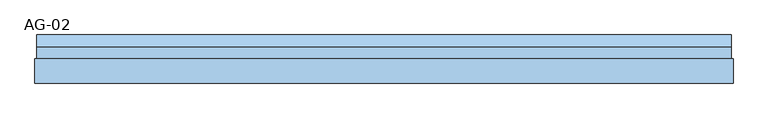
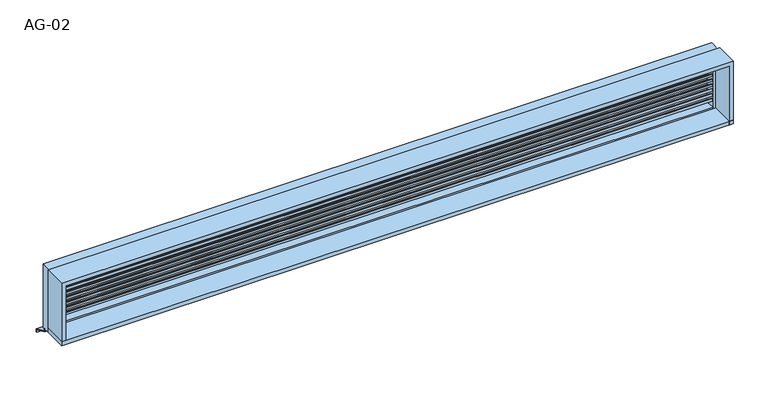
"""IFC4 building model written with IfcOpenShell, lengths in millimetres: window geometry, 営_単窓_ガラリ : AG-02."""

import ifcopenshell
import ifcopenshell.guid

model = None  # the IFC model being written
_history = None  # IfcOwnerHistory: only IFC2X3 demands one
_inside = {}  # id of a spatial element -> (the spatial element, [elements in it])
_under = {}  # id of a project, library or spatial element -> (it, [spatial elements below it])
_declared = {}  # id of a project -> (the project, [libraries it declares])
_typed = {}  # id of a type object -> (the type object, [elements of that type])
_made_of = {}  # id of a material, layer set ... -> (it, [elements and type objects made of it])


def new_model(schema):
    """Start an empty IFC model of exactly this schema.

    Asked for "IFC4X3", IfcOpenShell would pick the latest addendum, in which some entities
    have other attributes; the version numbers below select the first issue.
    IFC2X3 requires an IfcOwnerHistory on every rooted entity: one is made here for all.
    """
    global model, _history
    if schema == "IFC4X3":
        model = ifcopenshell.file(schema_version=(4, 3, 0, 0))
    else:
        model = ifcopenshell.file(schema=schema)
    _inside.clear()
    _under.clear()
    _declared.clear()
    _typed.clear()
    _made_of.clear()
    _history = None
    if model.schema == "IFC2X3":
        org = make("IfcOrganization", Name="unknown")
        user = make(
            "IfcPersonAndOrganization",
            ThePerson=make("IfcPerson", FamilyName="unknown"),
            TheOrganization=org,
        )
        app = make(
            "IfcApplication",
            ApplicationDeveloper=org,
            Version="unknown",
            ApplicationFullName="unknown",
            ApplicationIdentifier="unknown",
        )
        _history = make(
            "IfcOwnerHistory",
            OwningUser=user,
            OwningApplication=app,
            ChangeAction="ADDED",
            CreationDate=0,
        )
    return model


def make(cls, **values):
    """One entity of the class cls with the attributes given. An attribute that is None is left unset."""
    return model.create_entity(
        cls, **{name: value for name, value in values.items() if value is not None}
    )


def rooted(cls, **values):
    """An entity with a GlobalId (a new one), such as an element, a storey or a relation."""
    return make(cls, GlobalId=ifcopenshell.guid.new(), OwnerHistory=_history, **values)


def si_unit(unit_type, name, prefix=None):
    """IfcSIUnit, for example si_unit("LENGTHUNIT", "METRE", prefix="MILLI")."""
    return make("IfcSIUnit", UnitType=unit_type, Prefix=prefix, Name=name)


def assignment(units):
    """IfcUnitAssignment: the units of a project."""
    return None if units is None else make("IfcUnitAssignment", Units=units)


def point(xyz):
    """IfcCartesianPoint."""
    return None if xyz is None else make("IfcCartesianPoint", Coordinates=xyz)


def direction(xyz):
    """IfcDirection."""
    return None if xyz is None else make("IfcDirection", DirectionRatios=xyz)


def frame(location, z_axis=None, x_axis=None):
    """IfcAxis2Placement3D, a coordinate frame: its origin and axes. An axis left out is left unset."""
    return make(
        "IfcAxis2Placement3D",
        Location=point(location),
        Axis=direction(z_axis),
        RefDirection=direction(x_axis),
    )


def origin():
    """The frame at (0, 0, 0) with its axes left unset."""
    return frame((0.0, 0.0, 0.0))


def place(relative_to, where):
    """IfcLocalPlacement: puts the frame where relative to a parent placement (None: the world)."""
    return make(
        "IfcLocalPlacement", PlacementRelTo=relative_to, RelativePlacement=where
    )


def context(
    kind, dimensions, precision=None, world=None, true_north=None, identifier=None
):
    """IfcGeometricRepresentationContext, for example the 3D "Model" context."""
    return make(
        "IfcGeometricRepresentationContext",
        ContextIdentifier=identifier,
        ContextType=kind,
        CoordinateSpaceDimension=dimensions,
        Precision=precision,
        WorldCoordinateSystem=world,
        TrueNorth=true_north,
    )


def project(units=None, contexts=None):
    """IfcProject with its units and contexts."""
    return rooted(
        "IfcProject",
        Name="project",
        RepresentationContexts=contexts,
        UnitsInContext=assignment(units),
    )


def spatial(cls, under=None, at=None, **own):
    """A site, building, storey or space (cls), placed at a placement, below another one or the project."""
    s = rooted(cls, ObjectPlacement=at, **own)
    if under is not None:
        _under.setdefault(under.id(), (under, []))[1].append(s)
    return s


def polyline(points):
    """IfcPolyline through the points."""
    return make("IfcPolyline", Points=[point(p) for p in points])


def outline(outer, holes=None, kind="AREA"):
    """IfcArbitraryClosedProfileDef: a profile drawn as a closed curve; with holes, ...WithVoids."""
    if holes is None:
        return make("IfcArbitraryClosedProfileDef", ProfileType=kind, OuterCurve=outer)
    return make(
        "IfcArbitraryProfileDefWithVoids",
        ProfileType=kind,
        OuterCurve=outer,
        InnerCurves=holes,
    )


def extrude(swept, where, along, depth):
    """IfcExtrudedAreaSolid: the profile swept, set in the frame where, extruded along a direction by depth."""
    return make(
        "IfcExtrudedAreaSolid",
        SweptArea=swept,
        Position=where,
        ExtrudedDirection=direction(along),
        Depth=depth,
    )


def shape(context_of_items, identifier, shape_type, items):
    """IfcShapeRepresentation: the items that make up one representation, for example the "Body"."""
    return make(
        "IfcShapeRepresentation",
        ContextOfItems=context_of_items,
        RepresentationIdentifier=identifier,
        RepresentationType=shape_type,
        Items=items,
    )


def source(mapping_origin, context_of_items, identifier, shape_type, items):
    """IfcRepresentationMap: a shape defined once, which mapped items show again and again."""
    return make(
        "IfcRepresentationMap",
        MappingOrigin=mapping_origin,
        MappedRepresentation=shape(context_of_items, identifier, shape_type, items),
    )


def transform(
    local_origin,
    x_axis=None,
    y_axis=None,
    z_axis=None,
    scale=None,
    scale2=None,
    scale3=None,
    uniform=True,
):
    """IfcCartesianTransformationOperator3D, or its non-uniform kind. x_axis, y_axis, z_axis: its Axis1, 2, 3."""
    if uniform:
        return make(
            "IfcCartesianTransformationOperator3D",
            Axis1=direction(x_axis),
            Axis2=direction(y_axis),
            LocalOrigin=point(local_origin),
            Scale=scale,
            Axis3=direction(z_axis),
        )
    return make(
        "IfcCartesianTransformationOperator3DnonUniform",
        Axis1=direction(x_axis),
        Axis2=direction(y_axis),
        LocalOrigin=point(local_origin),
        Scale=scale,
        Axis3=direction(z_axis),
        Scale2=scale2,
        Scale3=scale3,
    )


def mapped(mapping_source, mapping_target):
    """IfcMappedItem: shows the shape of a source again, moved by a transform."""
    return make(
        "IfcMappedItem", MappingSource=mapping_source, MappingTarget=mapping_target
    )


def made_of(thing, what):
    """Note that an element or type object is made of a material, layer set ...; save() writes the relation."""
    if what is not None:
        _made_of.setdefault(what.id(), (what, []))[1].append(thing)
    return thing


def element(
    cls,
    number,
    at=None,
    inside=None,
    cuts=None,
    type_object=None,
    material=None,
    context=None,
    identifier="Body",
    shape_type=None,
    held_by="IfcProductDefinitionShape",
    body=None,
    shapes=None,
    **own,
):
    """One element of the class cls, such as IfcWall. Its Tag is "e" and its number.

    at: its placement. inside: the storey or other place that contains it. cuts: it is an
    opening in that element (IfcRelVoidsElement). A single representation is given by context,
    identifier, shape_type and body (its items); several are given by shapes. held_by: the class
    of the entity that holds the representations. save() writes the other relations.
    """
    e = rooted(cls, Tag="e%d" % number, ObjectPlacement=at, **own)
    if body is not None:
        shapes = [shape(context, identifier, shape_type, body)]
    if shapes is not None:
        e.Representation = make(held_by, Representations=shapes)
    if inside is not None:
        _inside.setdefault(inside.id(), (inside, []))[1].append(e)
    if cuts is not None:
        rooted(
            "IfcRelVoidsElement", RelatingBuildingElement=cuts, RelatedOpeningElement=e
        )
    if type_object is not None:
        _typed.setdefault(type_object.id(), (type_object, []))[1].append(e)
    return made_of(e, material)


def aggregate(whole, parts):
    """IfcRelAggregates: a whole, such as a stair, and the parts it consists of."""
    return rooted("IfcRelAggregates", RelatingObject=whole, RelatedObjects=parts)


def save(model, path):
    """Write the relations noted so far, then the file.

    IfcRelAggregates (storeys below a building ...), IfcRelContainedInSpatialStructure (elements
    in a storey), IfcRelDefinesByType, IfcRelAssociatesMaterial and IfcRelDeclares: one each for
    every whole, place, type object, material and project.
    """
    for whole, parts in _under.values():
        aggregate(whole, parts)
    for where, things in _inside.values():
        rooted(
            "IfcRelContainedInSpatialStructure",
            RelatedElements=things,
            RelatingStructure=where,
        )
    for kind, things in _typed.values():
        rooted("IfcRelDefinesByType", RelatedObjects=things, RelatingType=kind)
    for what, things in _made_of.values():
        rooted("IfcRelAssociatesMaterial", RelatedObjects=things, RelatingMaterial=what)
    for by, libraries in _declared.values():
        rooted("IfcRelDeclares", RelatingContext=by, RelatedDefinitions=libraries)
    model.write(path)


def ag_02_89f51cda(model_context):
    return source(origin(), model_context, "Body", "SweptSolid", [
        extrude(outline(polyline([(15.0, 1484.9160321), (15.0, 1466.6666667), (10.0, 1466.6666667), (10.0, 1481.6666667), (-35.0, 1501.6666667), (-35.0, 1516.6666667), (-30.0, 1516.6666667), (-30.0, 1504.9160321), (15.0, 1484.9160321)])), frame((-2100.0, 0.0, 0.0), z_axis=(1.0, 0.0, 0.0), x_axis=(0.0, 1.0, 0.0)), (0.0, 0.0, 1.0), 4200.0),
        extrude(outline(polyline([(15.0, 1451.5826988), (15.0, 1433.3333333), (10.0, 1433.3333333), (10.0, 1448.3333333), (-35.0, 1468.3333333), (-35.0, 1483.3333333), (-30.0, 1483.3333333), (-30.0, 1471.5826988), (15.0, 1451.5826988)])), frame((-2100.0, 0.0, 0.0), z_axis=(1.0, 0.0, 0.0), x_axis=(0.0, 1.0, 0.0)), (0.0, 0.0, 1.0), 4200.0),
        extrude(outline(polyline([(15.0, 1418.2493654), (15.0, 1400.0), (10.0, 1400.0), (10.0, 1415.0), (-35.0, 1435.0), (-35.0, 1450.0), (-30.0, 1450.0), (-30.0, 1438.2493654), (15.0, 1418.2493654)])), frame((-2100.0, 0.0, 0.0), z_axis=(1.0, 0.0, 0.0), x_axis=(0.0, 1.0, 0.0)), (0.0, 0.0, 1.0), 4200.0),
        extrude(outline(polyline([(15.0, 1384.9160321), (15.0, 1366.6666667), (10.0, 1366.6666667), (10.0, 1381.6666667), (-35.0, 1401.6666667), (-35.0, 1416.6666667), (-30.0, 1416.6666667), (-30.0, 1404.9160321), (15.0, 1384.9160321)])), frame((-2100.0, 0.0, 0.0), z_axis=(1.0, 0.0, 0.0), x_axis=(0.0, 1.0, 0.0)), (0.0, 0.0, 1.0), 4200.0),
        extrude(outline(polyline([(15.0, 1351.5826988), (15.0, 1333.3333333), (10.0, 1333.3333333), (10.0, 1348.3333333), (-35.0, 1368.3333333), (-35.0, 1383.3333333), (-30.0, 1383.3333333), (-30.0, 1371.5826988), (15.0, 1351.5826988)])), frame((-2100.0, 0.0, 0.0), z_axis=(1.0, 0.0, 0.0), x_axis=(0.0, 1.0, 0.0)), (0.0, 0.0, 1.0), 4200.0),
        extrude(outline(polyline([(15.0, 1318.2493654), (15.0, 1300.0), (10.0, 1300.0), (10.0, 1315.0), (-35.0, 1335.0), (-35.0, 1350.0), (-30.0, 1350.0), (-30.0, 1338.2493654), (15.0, 1318.2493654)])), frame((-2100.0, 0.0, 0.0), z_axis=(1.0, 0.0, 0.0), x_axis=(0.0, 1.0, 0.0)), (0.0, 0.0, 1.0), 4200.0),
        extrude(outline(polyline([(15.0, 1284.9160321), (15.0, 1266.6666667), (10.0, 1266.6666667), (10.0, 1281.6666667), (-35.0, 1301.6666667), (-35.0, 1316.6666667), (-30.0, 1316.6666667), (-30.0, 1304.9160321), (15.0, 1284.9160321)])), frame((-2100.0, 0.0, 0.0), z_axis=(1.0, 0.0, 0.0), x_axis=(0.0, 1.0, 0.0)), (0.0, 0.0, 1.0), 4200.0),
        extrude(outline(polyline([(15.0, 1251.5826988), (15.0, 1233.3333333), (10.0, 1233.3333333), (10.0, 1248.3333333), (-35.0, 1268.3333333), (-35.0, 1283.3333333), (-30.0, 1283.3333333), (-30.0, 1271.5826988), (15.0, 1251.5826988)])), frame((-2100.0, 0.0, 0.0), z_axis=(1.0, 0.0, 0.0), x_axis=(0.0, 1.0, 0.0)), (0.0, 0.0, 1.0), 4200.0),
        extrude(outline(polyline([(15.0, 1518.2493654), (15.0, 1500.0), (10.0, 1500.0), (10.0, 1515.0), (-35.0, 1535.0), (-35.0, 1550.0), (-30.0, 1550.0), (-30.0, 1538.2493654), (15.0, 1518.2493654)])), frame((-2100.0, 0.0, 0.0), z_axis=(1.0, 0.0, 0.0), x_axis=(0.0, 1.0, 0.0)), (0.0, 0.0, 1.0), 4200.0),
        extrude(outline(polyline([(15.0, 1218.2493654), (15.0, 1200.0), (10.0, 1200.0), (10.0, 1215.0), (-35.0, 1235.0), (-35.0, 1250.0), (-30.0, 1250.0), (-30.0, 1238.2493654), (15.0, 1218.2493654)])), frame((-2100.0, 0.0, 0.0), z_axis=(1.0, 0.0, 0.0), x_axis=(0.0, 1.0, 0.0)), (0.0, 0.0, 1.0), 4200.0),
        extrude(outline(polyline([(2140.0, -195.0), (-2140.0, -195.0), (-2140.0, -45.0), (2140.0, -45.0), (2140.0, -195.0)])), frame((0.0, 0.0, 1165.0), z_axis=(0.0, 0.0, 1.0), x_axis=(1.0, 0.0, 0.0)), (0.0, 0.0, 1.0), 25.0),
        extrude(outline(polyline([(15.0, 1135.0), (100.0, 1095.0), (100.0, 1075.0), (95.0014518, 1075.0), (95.0014518, 1091.8262891), (10.0, 1131.8269723), (10.0, 1150.0), (15.0, 1150.0), (15.0, 1135.0)])), frame((-2130.0, 0.0, 0.0), z_axis=(1.0, 0.0, 0.0), x_axis=(0.0, 1.0, 0.0)), (0.0, 0.0, 1.0), 4260.0),
        extrude(outline(polyline([(1165.0, -2140.0), (1165.0, -2115.0), (1560.0, -2115.0), (1560.0, 2115.0), (1165.0, 2115.0), (1165.0, 2140.0), (1585.0, 2140.0), (1585.0, -2140.0), (1165.0, -2140.0)])), frame((0.0, -195.0, 0.0), z_axis=(0.0, 1.0, 0.0), x_axis=(0.0, 0.0, 1.0)), (0.0, 0.0, 1.0), 150.0),
        extrude(outline(polyline([(1150.0, -2130.0), (1150.0, -2100.0), (1550.0, -2100.0), (1550.0, 2100.0), (1150.0, 2100.0), (1150.0, 2130.0), (1580.0, 2130.0), (1580.0, -2130.0), (1150.0, -2130.0)])), frame((0.0, -45.0, 0.0), z_axis=(0.0, 1.0, 0.0), x_axis=(0.0, 0.0, 1.0)), (0.0, 0.0, 1.0), 70.0),
        extrude(outline(polyline([(-45.0, 1150.0), (-45.0, 1200.0), (25.0, 1190.6666667), (25.0, 1150.0), (-45.0, 1150.0)])), frame((-2100.0, 0.0, 0.0), z_axis=(1.0, 0.0, 0.0), x_axis=(0.0, 1.0, 0.0)), (0.0, 0.0, 1.0), 4200.0),
    ])


if __name__ == "__main__":
    model = new_model("IFC4")
    model_context = context("Model", 3, world=origin())
    ifc_project = project(units=[si_unit("LENGTHUNIT", "METRE", prefix="MILLI")], contexts=[model_context])
    site = spatial("IfcSite", under=ifc_project)
    building = spatial("IfcBuilding", under=site)
    placement = place(None, origin())
    ag_02_shape = ag_02_89f51cda(model_context)
    element("IfcWindow", 1, ObjectType="営_単窓_ガラリ : AG-02", at=placement, inside=building, context=model_context, shape_type="MappedRepresentation", body=[
        mapped(ag_02_shape, transform((0.0, 0.0, 0.0), x_axis=(1.0, 0.0, 0.0), y_axis=(0.0, 1.0, 0.0), z_axis=(0.0, 0.0, 1.0))),
    ])
    save(model, "model.ifc")
